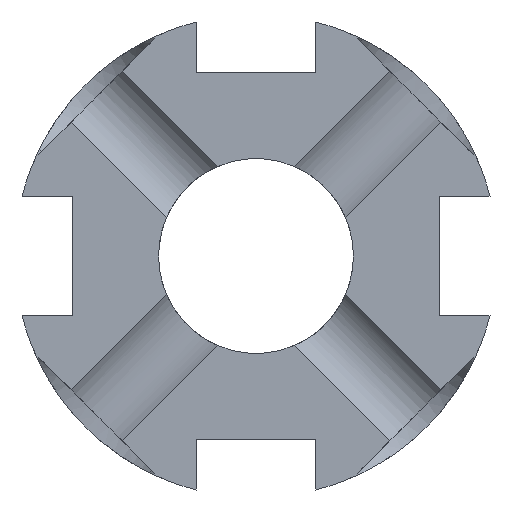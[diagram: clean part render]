
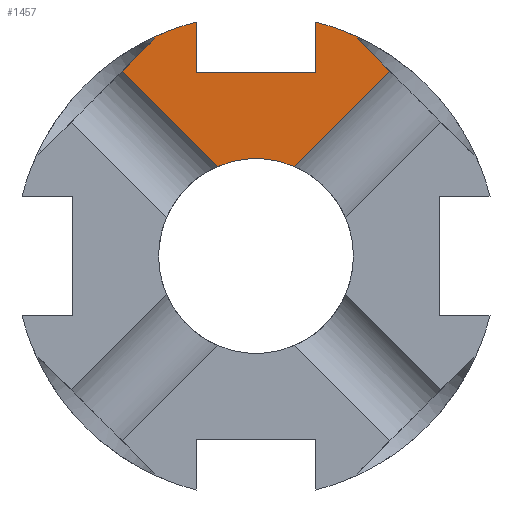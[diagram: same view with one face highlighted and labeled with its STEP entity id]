
A CAD part, front view. The second image highlights one B-rep face of the part: STEP entity #1457.
In plain terms, the highlighted planar face has unit normal (0, -1, 0).
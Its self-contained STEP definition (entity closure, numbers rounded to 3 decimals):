
#1457=ADVANCED_FACE('Split.2',(#3039),#3040,.F.);
#3039=FACE_OUTER_BOUND('',#4615,.T.);
#3040=PLANE('',#4616);
#4615=EDGE_LOOP('',(#9363,#9364,#9365,#9366,#9367,#9368,#9369,#9370,#9371,#9372,#9373,#9374));
#4616=AXIS2_PLACEMENT_3D('',#9375,#9376,#9377);
#9363=ORIENTED_EDGE('',*,*,#10200,.T.);
#9364=ORIENTED_EDGE('',*,*,#10883,.F.);
#9365=ORIENTED_EDGE('',*,*,#10887,.F.);
#9366=ORIENTED_EDGE('',*,*,#10892,.F.);
#9367=ORIENTED_EDGE('',*,*,#10275,.F.);
#9368=ORIENTED_EDGE('',*,*,#10242,.T.);
#9369=ORIENTED_EDGE('',*,*,#10254,.T.);
#9370=ORIENTED_EDGE('',*,*,#10364,.T.);
#9371=ORIENTED_EDGE('',*,*,#10367,.F.);
#9372=ORIENTED_EDGE('',*,*,#10798,.T.);
#9373=ORIENTED_EDGE('',*,*,#10792,.F.);
#9374=ORIENTED_EDGE('',*,*,#10788,.T.);
#9375=CARTESIAN_POINT('',(0.0,0.0,0.0));
#9376=DIRECTION('',(0.0,1.0,0.0));
#9377=DIRECTION('',(0.0,0.0,1.0));
#10200=EDGE_CURVE('',#12635,#12633,#12636,.T.);
#10242=EDGE_CURVE('',#12687,#12691,#12693,.T.);
#10254=EDGE_CURVE('',#12691,#12710,#12712,.T.);
#10275=EDGE_CURVE('',#12687,#12744,#12745,.T.);
#10364=EDGE_CURVE('',#12710,#12901,#12903,.T.);
#10367=EDGE_CURVE('',#12906,#12901,#12908,.T.);
#10788=EDGE_CURVE('',#13564,#12635,#13567,.T.);
#10792=EDGE_CURVE('',#13564,#13573,#13574,.T.);
#10798=EDGE_CURVE('',#12906,#13573,#13580,.T.);
#10883=EDGE_CURVE('',#13676,#12633,#13679,.T.);
#10887=EDGE_CURVE('',#13682,#13676,#13685,.T.);
#10892=EDGE_CURVE('',#12744,#13682,#13691,.T.);
#12633=VERTEX_POINT('',#20575);
#12635=VERTEX_POINT('',#20591);
#12636=CIRCLE('',#20592,6.05);
#12687=VERTEX_POINT('',#21226);
#12691=VERTEX_POINT('',#21232);
#12693=LINE('',#21235,#21236);
#12710=VERTEX_POINT('',#21259);
#12712=LINE('',#21262,#21263);
#12744=VERTEX_POINT('',#21313);
#12745=CIRCLE('',#21314,15.0);
#12901=VERTEX_POINT('',#21868);
#12903=LINE('',#21871,#21872);
#12906=VERTEX_POINT('',#21875);
#12908=CIRCLE('',#21894,15.0);
#13564=VERTEX_POINT('',#25291);
#13567=LINE('',#25295,#25296);
#13573=VERTEX_POINT('',#25303);
#13574=LINE('',#25304,#25305);
#13580=LINE('',#25313,#25314);
#13676=VERTEX_POINT('',#25428);
#13679=LINE('',#25431,#25432);
#13682=VERTEX_POINT('',#25436);
#13685=LINE('',#25439,#25440);
#13691=LINE('',#25448,#25449);
#20575=CARTESIAN_POINT('',(2.394,0.,5.556));
#20591=CARTESIAN_POINT('',(-2.394,0.,5.556));
#20592=AXIS2_PLACEMENT_3D('',#26727,#26728,#26729);
#21226=CARTESIAN_POINT('',(3.7,0.0,14.537));
#21232=CARTESIAN_POINT('',(3.7,0.0,11.4));
#21235=CARTESIAN_POINT('',(3.7,0.0,12.968));
#21236=VECTOR('',#26739,1.0);
#21259=CARTESIAN_POINT('',(-3.7,0.0,11.4));
#21262=CARTESIAN_POINT('',(0.,0.0,11.4));
#21263=VECTOR('',#26753,1.0);
#21313=CARTESIAN_POINT('',(6.346,0.,13.592));
#21314=AXIS2_PLACEMENT_3D('',#26806,#26807,#26808);
#21868=CARTESIAN_POINT('',(-3.7,0.0,14.537));
#21871=CARTESIAN_POINT('',(-3.7,0.0,12.968));
#21872=VECTOR('',#26894,1.0);
#21875=CARTESIAN_POINT('',(-6.346,0.,13.592));
#21894=AXIS2_PLACEMENT_3D('',#26895,#26896,#26897);
#25291=CARTESIAN_POINT('',(-8.318,0.,11.481));
#25295=CARTESIAN_POINT('',(-5.356,0.0,8.518));
#25296=VECTOR('',#27210,1.0);
#25303=CARTESIAN_POINT('',(-6.277,0.,13.522));
#25304=CARTESIAN_POINT('',(-7.298,0.0,12.501));
#25305=VECTOR('',#27215,1.0);
#25313=CARTESIAN_POINT('',(-6.311,0.0,13.557));
#25314=VECTOR('',#27221,1.0);
#25428=CARTESIAN_POINT('',(8.318,0.,11.481));
#25431=CARTESIAN_POINT('',(5.356,0.0,8.518));
#25432=VECTOR('',#27315,1.0);
#25436=CARTESIAN_POINT('',(6.277,0.,13.522));
#25439=CARTESIAN_POINT('',(7.298,0.0,12.501));
#25440=VECTOR('',#27320,1.0);
#25448=CARTESIAN_POINT('',(6.311,0.0,13.557));
#25449=VECTOR('',#27326,1.0);
#26727=CARTESIAN_POINT('',(0.,0.0,0.));
#26728=DIRECTION('',(0.0,1.0,0.0));
#26729=DIRECTION('',(0.0,0.0,1.0));
#26739=DIRECTION('',(0.0,0.0,-1.0));
#26753=DIRECTION('',(-1.0,0.0,0.0));
#26806=CARTESIAN_POINT('',(0.,0.0,0.));
#26807=DIRECTION('',(0.0,1.0,0.0));
#26808=DIRECTION('',(0.0,0.0,1.0));
#26894=DIRECTION('',(0.0,0.0,1.0));
#26895=CARTESIAN_POINT('',(0.,0.0,0.));
#26896=DIRECTION('',(0.0,1.0,0.0));
#26897=DIRECTION('',(0.0,0.0,1.0));
#27210=DIRECTION('',(0.707,0.0,-0.707));
#27215=DIRECTION('',(0.707,0.0,0.707));
#27221=DIRECTION('',(0.707,0.0,-0.707));
#27315=DIRECTION('',(-0.707,0.0,-0.707));
#27320=DIRECTION('',(0.707,0.0,-0.707));
#27326=DIRECTION('',(-0.707,0.0,-0.707));
